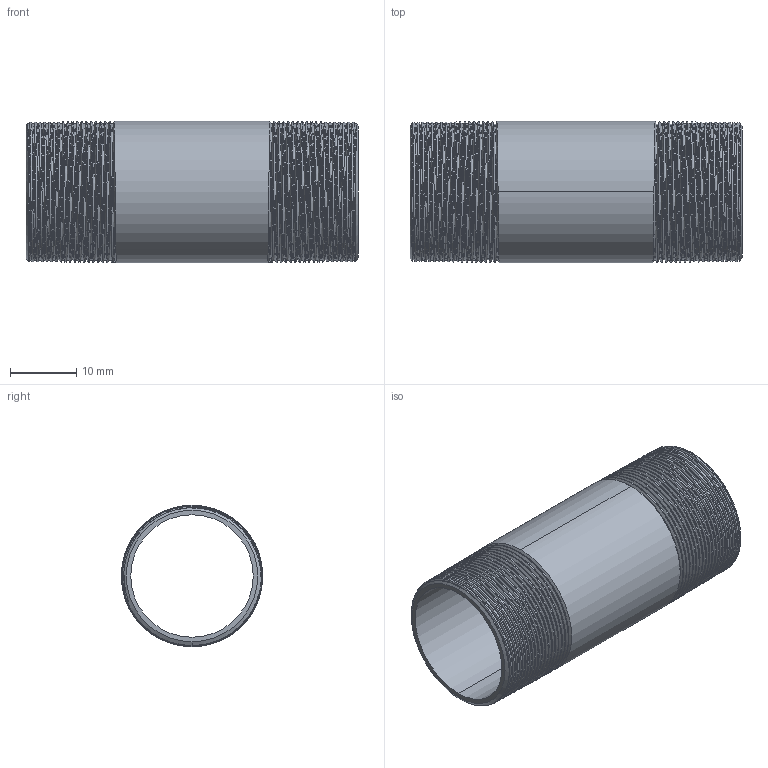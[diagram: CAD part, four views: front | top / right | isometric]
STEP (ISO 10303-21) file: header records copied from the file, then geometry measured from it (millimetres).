
FILE_DESCRIPTION (( 'STEP AP203' ), '1' );
FILE_NAME ('3D_R210_1-2x50_17148535.STEP', '2024-08-16T09:56:40', ( '' ), ( '' ), 'SwSTEP 2.0', 'SolidWorks 2024', '' );
FILE_SCHEMA (( 'CONFIG_CONTROL_DESIGN' ));
Length unit declared in the file: millimetre
Products named in the file (1): 3D_R210_1-2x50_17148535
Bounding box: 50 x 21.3 x 21.3 mm (x, y, z)
Volume: 4052.9 mm3; surface area: 7143.1 mm2
Topology: 1 solids, 1 shells, 94 faces, 268 edges, 176 vertices
Faces by surface type: cone 80, bspline 6, cylinder 4, plane 4
Entity records: 13577 total; most frequent: CARTESIAN_POINT 11393, ORIENTED_EDGE 536, DIRECTION 296, EDGE_CURVE 268, VERTEX_POINT 176, B_SPLINE_CURVE_WITH_KNOTS 156, AXIS2_PLACEMENT_3D 103, EDGE_LOOP 96
